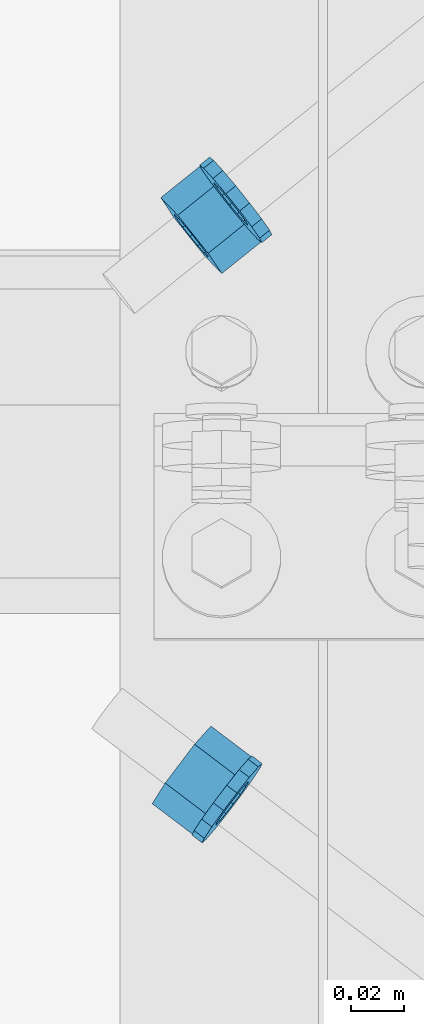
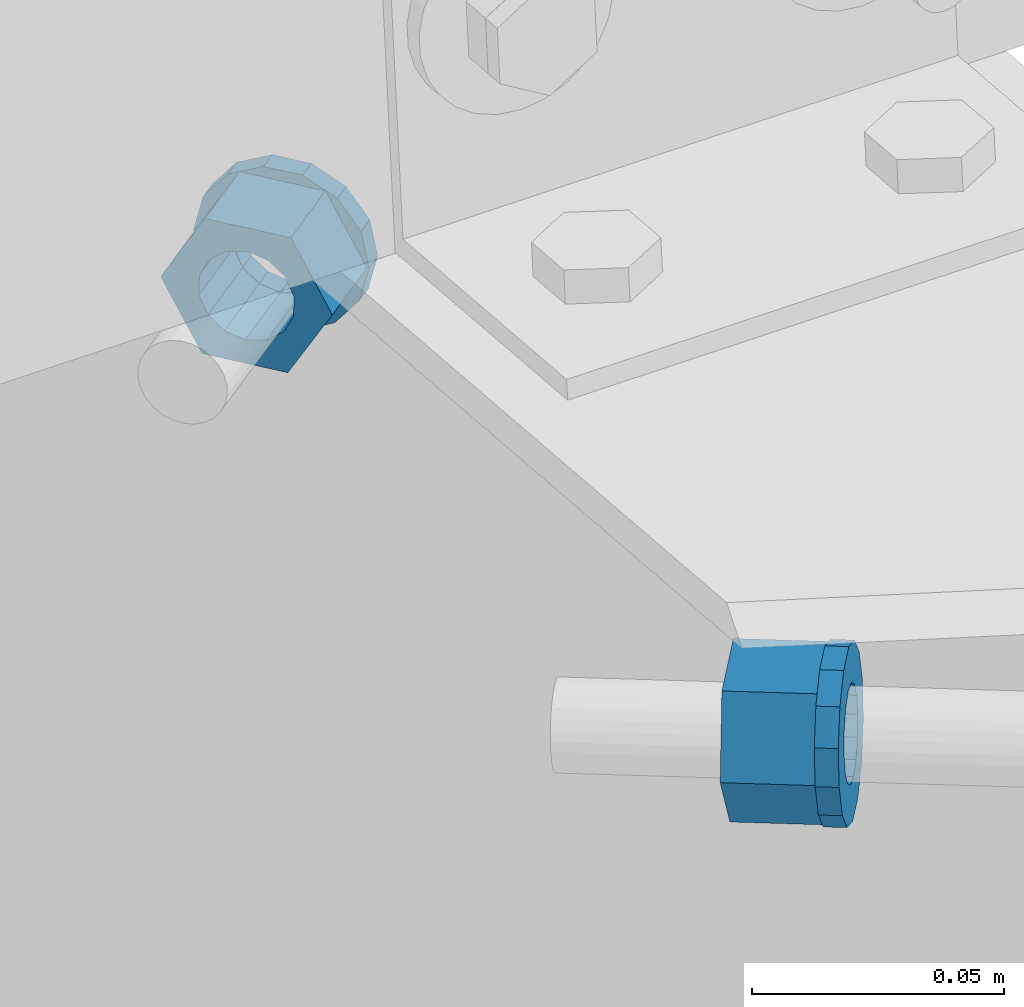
# One storey, part 41 of 185: 4 beams, 4 elements without a shape of their own.
"""IFC2X3 building model written with IfcOpenShell, lengths in millimetres."""

from ifc_helpers import new_model, si_unit, frame, origin_with_axes, place, context, subcontext, project, spatial, polyline, outline, extrude, material, type_object, element, aggregate, save


model = new_model("IFC2X3")

# Units and contexts
model_context = context("Model", 3, precision=1e-05, world=origin_with_axes())
body_context = subcontext(model_context, "Body", "Model", "MODEL_VIEW")
ifc_project = project(units=[si_unit("LENGTHUNIT", "METRE", prefix="MILLI"), si_unit("AREAUNIT", "SQUARE_METRE"), si_unit("VOLUMEUNIT", "CUBIC_METRE"), si_unit("MASSUNIT", "GRAM", prefix="KILO"), si_unit("TIMEUNIT", "SECOND"), si_unit("PLANEANGLEUNIT", "RADIAN"), si_unit("SOLIDANGLEUNIT", "STERADIAN"), si_unit("THERMODYNAMICTEMPERATUREUNIT", "DEGREE_CELSIUS"), si_unit("LUMINOUSINTENSITYUNIT", "LUMEN")], contexts=[model_context])

# Site, building, storey
site_placement = place(None, origin_with_axes())
site = spatial("IfcSite", under=ifc_project, at=site_placement, Name="Undefined", CompositionType="ELEMENT")
building_placement = place(site_placement, origin_with_axes())
building = spatial("IfcBuilding", under=site, at=building_placement, Name="Undefined", CompositionType="ELEMENT")
storey_placement = place(building_placement, origin_with_axes())
storey = spatial("IfcBuildingStorey", under=building, at=storey_placement, Name="Undefined", CompositionType="ELEMENT", Elevation=0.0)

# Assembly, beam
assembly_1_placement = place(storey_placement, origin_with_axes())
assembly_1 = element("IfcElementAssembly", 1, at=assembly_1_placement, inside=storey, Name="Steel Assembly", AssemblyPlace="NOTDEFINED", PredefinedType="RIGID_FRAME")
ifc_material = material(Name="STEEL/55")
beam_type_1 = type_object("IfcBeamType", Name="3/4_HEAVY_HEX_NUT", PredefinedType="NOTDEFINED")
beam_1_placement = place(assembly_1_placement, frame((30061.0827767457, 25273.2563148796, 6394.03713574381), z_axis=(0.0403832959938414, -0.0299079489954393, -0.99873655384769), x_axis=(-0.796162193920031, 0.60299316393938, -0.0502494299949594)))
beam_1 = element("IfcBeam", 2, at=beam_1_placement, type_object=beam_type_1, material=ifc_material, Name="3/4 H HEX NUT A563", ObjectType="3/4_HEAVY_HEX_NUT", context=body_context, shape_type="SweptSolid", body=[
    extrude(outline(polyline([(9.13000011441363, -15.810000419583), (-9.13000011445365, -15.810000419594), (-18.2600002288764, 1.54614099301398e-11), (-9.13000011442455, 15.8100004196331), (9.13000011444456, 15.8100004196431), (18.2600002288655, 3.36513039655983e-11), (9.13000011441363, -15.810000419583)]), holes=[polyline([(-8.06850066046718, 6.43441456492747), (-10.061255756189, 2.29641597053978), (-10.0612557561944, -2.29641597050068), (-8.06850066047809, -6.43441456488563), (-4.47768005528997, -9.29799844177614), (-1.09139364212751e-11, -10.3199996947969), (4.47768005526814, -9.29799844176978), (8.0685006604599, -6.43441456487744), (10.0612557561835, -2.29641597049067), (10.0612557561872, 2.2964159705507), (8.06850066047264, 6.43441456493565), (4.47768005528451, 9.29799844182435), (7.27595761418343e-12, 10.319999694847), (-4.47768005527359, 9.2979984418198), (-8.06850066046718, 6.43441456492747)])]), frame((19.0500000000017, 0.0, 2.58175642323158e-19), z_axis=(-1.0, 0.0, 0.0), x_axis=(0.0, -1.0, 0.0)), (0.0, 0.0, 1.0), 19.0),
])
aggregate(assembly_1, [beam_1])

assembly_2_placement = place(storey_placement, origin_with_axes())
assembly_2 = element("IfcElementAssembly", 3, at=assembly_2_placement, inside=storey, Name="Steel Assembly", AssemblyPlace="NOTDEFINED", PredefinedType="RIGID_FRAME")
beam_2_placement = place(assembly_2_placement, frame((30064.3772229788, 25495.1940409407, 6375.54232090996), z_axis=(0.0409593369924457, 0.0321710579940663, 0.99864275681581), x_axis=(-0.778915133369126, -0.624963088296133, 0.0520802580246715)))
beam_2 = element("IfcBeam", 4, at=beam_2_placement, type_object=beam_type_1, material=ifc_material, Name="3/4 H HEX NUT A563", ObjectType="3/4_HEAVY_HEX_NUT", context=body_context, shape_type="SweptSolid", body=[
    extrude(outline(polyline([(9.13000011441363, -15.810000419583), (-9.13000011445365, -15.810000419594), (-18.2600002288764, 1.54614099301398e-11), (-9.13000011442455, 15.8100004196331), (9.13000011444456, 15.8100004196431), (18.2600002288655, 3.36513039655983e-11), (9.13000011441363, -15.810000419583)]), holes=[polyline([(-8.06850066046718, 6.43441456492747), (-10.061255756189, 2.29641597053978), (-10.0612557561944, -2.29641597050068), (-8.06850066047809, -6.43441456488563), (-4.47768005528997, -9.29799844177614), (-1.09139364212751e-11, -10.3199996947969), (4.47768005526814, -9.29799844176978), (8.0685006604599, -6.43441456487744), (10.0612557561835, -2.29641597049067), (10.0612557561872, 2.2964159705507), (8.06850066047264, 6.43441456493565), (4.47768005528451, 9.29799844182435), (7.27595761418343e-12, 10.319999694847), (-4.47768005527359, 9.2979984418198), (-8.06850066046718, 6.43441456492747)])]), frame((19.0500000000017, 0.0, 2.58175642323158e-19), z_axis=(-1.0, 0.0, 0.0), x_axis=(0.0, -1.0, 0.0)), (0.0, 0.0, 1.0), 19.0),
])
aggregate(assembly_2, [beam_2])

assembly_3_placement = place(storey_placement, origin_with_axes())
assembly_3 = element("IfcElementAssembly", 5, at=assembly_3_placement, inside=storey, Name="Steel Assembly", AssemblyPlace="NOTDEFINED", PredefinedType="RIGID_FRAME")
beam_type_2 = type_object("IfcBeamType", Name="3/4_WASHER", PredefinedType="NOTDEFINED")
beam_3_placement = place(assembly_3_placement, frame((30064.8744991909, 25270.3845599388, 6394.27644865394), z_axis=(0.0403832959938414, -0.0299079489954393, -0.99873655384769), x_axis=(-0.796162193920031, 0.60299316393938, -0.0502494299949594)))
beam_3 = element("IfcBeam", 6, at=beam_3_placement, type_object=beam_type_2, material=ifc_material, Name="3/4 WASHER F844", ObjectType="3/4_WASHER", context=body_context, shape_type="SweptSolid", body=[
    extrude(outline(polyline([(-11.6280845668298, -14.5811568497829), (-16.8030690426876, -8.09193156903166), (-18.649999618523, -4.54747350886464e-12), (-16.8030690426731, 8.09193156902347), (-11.6280845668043, 14.5811568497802), (-4.15001533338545, 18.1824051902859), (4.15001533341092, 18.1824051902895), (11.628084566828, 14.5811568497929), (16.8030690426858, 8.09193156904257), (18.6499996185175, 1.45519152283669e-11), (16.8030690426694, -8.09193156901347), (11.6280845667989, -14.5811568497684), (4.15001533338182, -18.182405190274), (-4.15001533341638, -18.1824051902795), (-11.6280845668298, -14.5811568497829)]), holes=[polyline([(-8.06850066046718, 6.43441456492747), (-10.061255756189, 2.29641597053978), (-10.0612557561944, -2.29641597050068), (-8.06850066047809, -6.43441456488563), (-4.47768005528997, -9.29799844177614), (-1.09139364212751e-11, -10.3199996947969), (4.47768005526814, -9.29799844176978), (8.0685006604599, -6.43441456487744), (10.0612557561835, -2.29641597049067), (10.0612557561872, 2.2964159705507), (8.06850066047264, 6.43441456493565), (4.47768005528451, 9.29799844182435), (7.27595761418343e-12, 10.319999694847), (-4.47768005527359, 9.2979984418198), (-8.06850066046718, 6.43441456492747)])]), frame((4.76250000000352, 2.6437185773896e-16, 5.6843418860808e-14), z_axis=(-1.0, 0.0, 0.0), x_axis=(0.0, -1.0, 0.0)), (0.0, 0.0, 1.0), 4.8),
])
aggregate(assembly_3, [beam_3])

assembly_4_placement = place(storey_placement, origin_with_axes())
assembly_4 = element("IfcElementAssembly", 7, at=assembly_4_placement, inside=storey, Name="Steel Assembly", AssemblyPlace="NOTDEFINED", PredefinedType="RIGID_FRAME")
beam_4_placement = place(assembly_4_placement, frame((30068.0868063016, 25498.1704276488, 6375.29428868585), z_axis=(0.0409593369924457, 0.0321710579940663, 0.99864275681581), x_axis=(-0.778915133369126, -0.624963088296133, 0.0520802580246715)))
beam_4 = element("IfcBeam", 8, at=beam_4_placement, type_object=beam_type_2, material=ifc_material, Name="3/4 WASHER F844", ObjectType="3/4_WASHER", context=body_context, shape_type="SweptSolid", body=[
    extrude(outline(polyline([(-11.6280845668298, -14.5811568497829), (-16.8030690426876, -8.09193156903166), (-18.649999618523, -4.54747350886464e-12), (-16.8030690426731, 8.09193156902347), (-11.6280845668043, 14.5811568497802), (-4.15001533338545, 18.1824051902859), (4.15001533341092, 18.1824051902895), (11.628084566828, 14.5811568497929), (16.8030690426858, 8.09193156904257), (18.6499996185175, 1.45519152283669e-11), (16.8030690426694, -8.09193156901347), (11.6280845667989, -14.5811568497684), (4.15001533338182, -18.182405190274), (-4.15001533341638, -18.1824051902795), (-11.6280845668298, -14.5811568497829)]), holes=[polyline([(-8.06850066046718, 6.43441456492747), (-10.061255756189, 2.29641597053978), (-10.0612557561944, -2.29641597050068), (-8.06850066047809, -6.43441456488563), (-4.47768005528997, -9.29799844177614), (-1.09139364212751e-11, -10.3199996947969), (4.47768005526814, -9.29799844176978), (8.0685006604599, -6.43441456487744), (10.0612557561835, -2.29641597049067), (10.0612557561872, 2.2964159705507), (8.06850066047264, 6.43441456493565), (4.47768005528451, 9.29799844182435), (7.27595761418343e-12, 10.319999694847), (-4.47768005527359, 9.2979984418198), (-8.06850066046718, 6.43441456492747)])]), frame((4.76250000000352, 2.6437185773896e-16, 5.6843418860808e-14), z_axis=(-1.0, 0.0, 0.0), x_axis=(0.0, -1.0, 0.0)), (0.0, 0.0, 1.0), 4.8),
])
aggregate(assembly_4, [beam_4])

save(model, "model.ifc")
